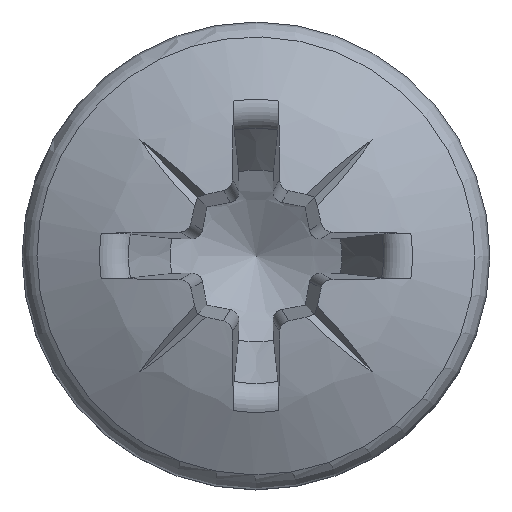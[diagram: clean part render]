
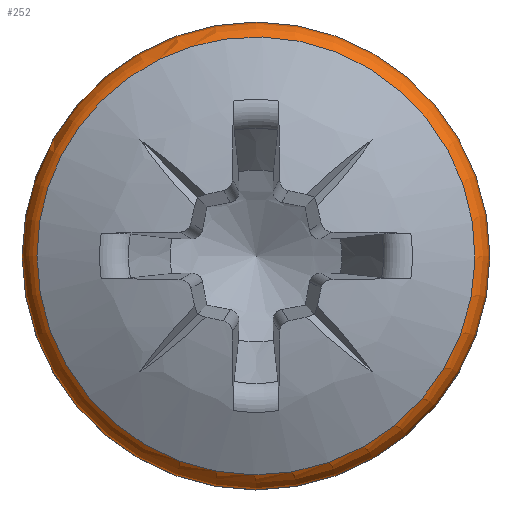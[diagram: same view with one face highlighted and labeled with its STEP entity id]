
A CAD part, top view. The second image highlights one B-rep face of the part: STEP entity #252.
In plain terms, the highlighted toroidal (fillet/blend) face has major radius 4.55 mm and minor radius 0.7 mm.
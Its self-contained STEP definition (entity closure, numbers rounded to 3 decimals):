
#181=TOROIDAL_SURFACE('',#1254,4.55,0.7);
#196=FACE_BOUND('',#391,.T.);
#197=FACE_BOUND('',#392,.T.);
#252=ADVANCED_FACE('',(#196,#197),#181,.T.);
#391=EDGE_LOOP('',(#727));
#392=EDGE_LOOP('',(#728));
#415=CIRCLE('',#1162,4.916);
#450=CIRCLE('',#1203,5.25);
#727=ORIENTED_EDGE('',*,*,#975,.F.);
#728=ORIENTED_EDGE('',*,*,#920,.F.);
#807=VERTEX_POINT('',#1768);
#859=VERTEX_POINT('',#2298);
#920=EDGE_CURVE('',#807,#807,#415,.T.);
#975=EDGE_CURVE('',#859,#859,#450,.T.);
#1162=AXIS2_PLACEMENT_3D('',#1767,#1269,#1270);
#1203=AXIS2_PLACEMENT_3D('',#2297,#1351,#1352);
#1254=AXIS2_PLACEMENT_3D('',#2774,#1485,#1486);
#1269=DIRECTION('',(0.,0.,1.));
#1270=DIRECTION('',(-1.,0.,0.));
#1351=DIRECTION('',(0.,0.,-1.));
#1352=DIRECTION('',(-1.,0.,0.));
#1485=DIRECTION('',(0.,0.,-1.));
#1486=DIRECTION('',(-1.,0.,0.));
#1767=CARTESIAN_POINT('',(0.,0.,2.615));
#1768=CARTESIAN_POINT('',(-4.916,0.,2.615));
#2297=CARTESIAN_POINT('',(0.,0.,2.018));
#2298=CARTESIAN_POINT('',(-5.25,0.,2.018));
#2774=CARTESIAN_POINT('',(0.,0.,2.018));
